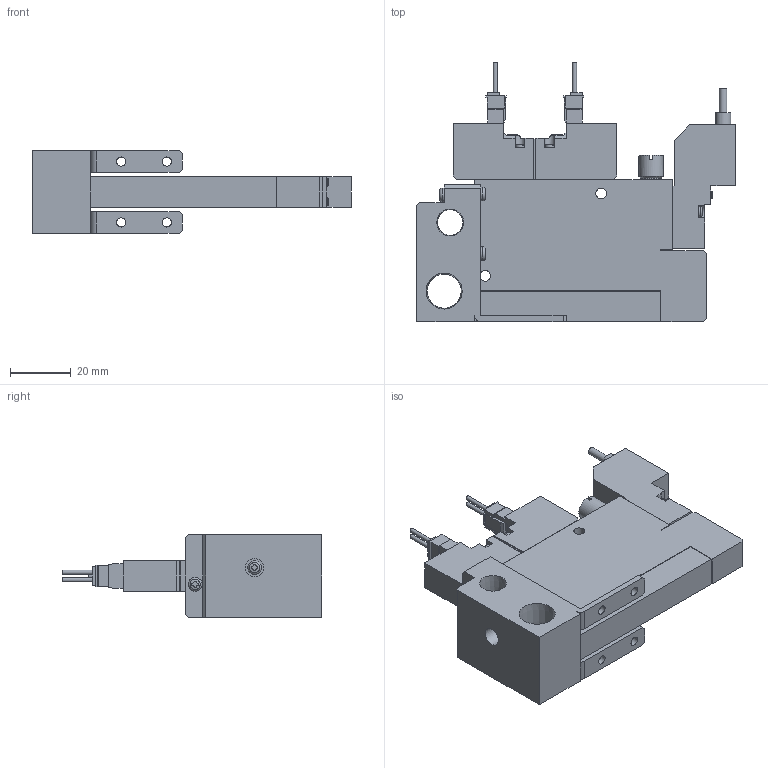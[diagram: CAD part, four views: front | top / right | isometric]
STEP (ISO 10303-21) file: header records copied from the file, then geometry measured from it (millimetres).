
FILE_DESCRIPTION(('STEP AP203'),'1');
FILE_NAME('V8C5SC101_3D.stp','2024-09-04T06:22:37',(' '),(' '),'Spatial InterOp 3D',' ',' ');
FILE_SCHEMA(('CONFIG_CONTROL_DESIGN'));
Length unit declared in the file: millimetre
Products named in the file (5): BSC1M※※V8C5SC101; Solenoid valve S; Pressure Sensor V8; Unit-C; BaseMC10R
Assembly tree (4 placements, depth 2):
  BSC1M※※V8C5SC101
    Solenoid valve S
    Pressure Sensor V8
    Unit-C
    BaseMC10R
Bounding box: 104.5 x 85.05 x 27 mm (x, y, z)
Volume: 67391 mm3; surface area: 24845.4 mm2
Topology: 4 solids, 4 shells, 472 faces, 1264 edges, 834 vertices
Faces by surface type: plane 347, cylinder 94, cone 13, torus 10, sphere 8
Full cylindrical faces by diameter (mm): 1.4 x4, 2.5 x5, 3 x8, 3.5 x6, 4 x1, 4.134 x2, 4.5 x6, 5 x1, 5.5 x1, 6 x1, 7 x2, 8 x1, 8.422 x1, 11.233 x1
Entity records: 14831 total; most frequent: CARTESIAN_POINT 3071, ORIENTED_EDGE 2336, DIRECTION 2302, EDGE_CURVE 1168, LINE 870, VECTOR 870, VERTEX_POINT 810, AXIS2_PLACEMENT_3D 716
